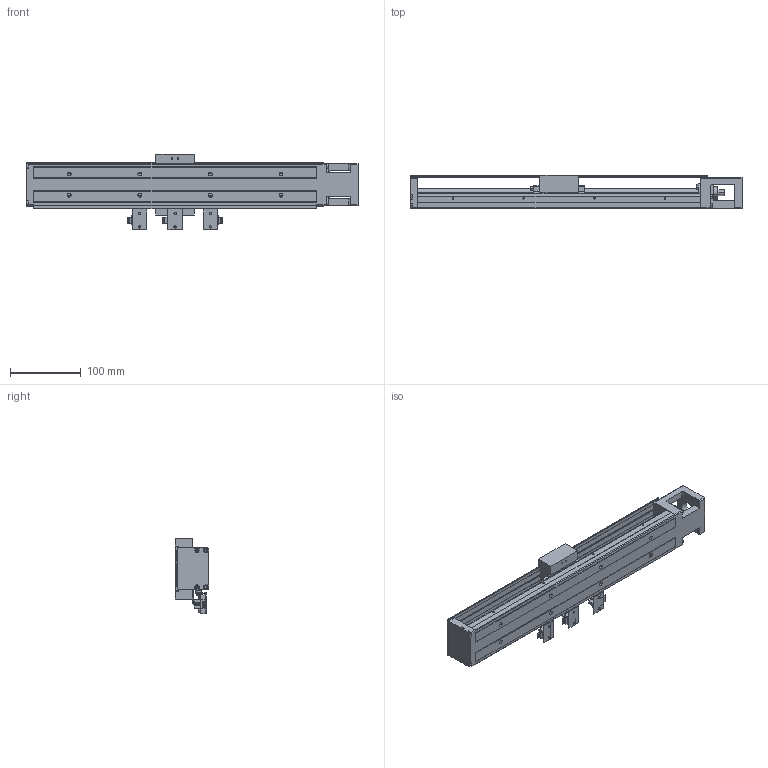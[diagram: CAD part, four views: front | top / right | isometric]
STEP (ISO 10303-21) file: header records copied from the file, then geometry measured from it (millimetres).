
FILE_DESCRIPTION (( 'STEP AP203' ), '1' );
FILE_NAME ('HKK60D10C-400A1-F0CS1.stp', '2021-11-29T03:39:47', ( '' ), ( '' ), 'SwSTEP 2.0', 'SolidWorks 2018', '' );
FILE_SCHEMA (( 'CONFIG_CONTROL_DESIGN' ));
Products named in the file (1): HKK60D10C-400A1-F0CS1
Bounding box: 470 x 48 x 106.85 mm (x, y, z)
Volume: 623920.5 mm3; surface area: 235382.8 mm2
Topology: 6 solids, 20 shells, 1440 faces, 3635 edges, 2307 vertices
Faces by surface type: plane 878, cylinder 410, cone 118, torus 32, bspline 2
Entity records: 43065 total; most frequent: CARTESIAN_POINT 8540, ORIENTED_EDGE 7154, DIRECTION 7059, EDGE_CURVE 3577, VECTOR 2485, LINE 2485, VERTEX_POINT 2307, AXIS2_PLACEMENT_3D 2287
